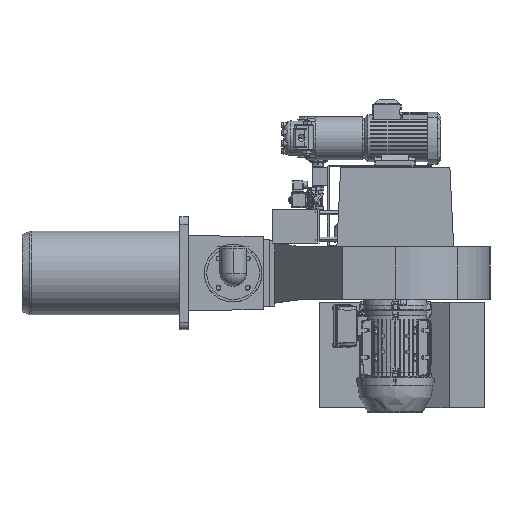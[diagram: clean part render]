
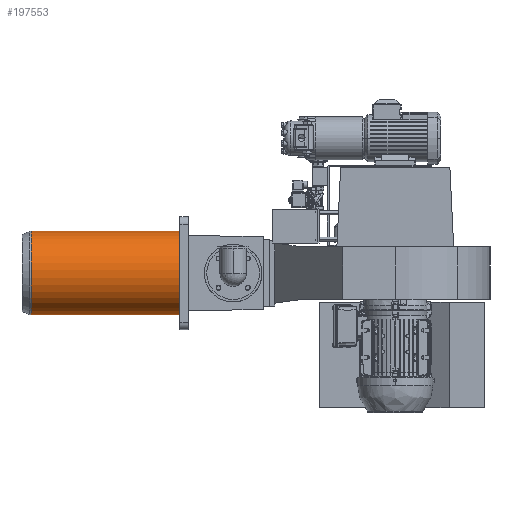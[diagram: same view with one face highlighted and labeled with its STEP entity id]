
A CAD part, front view. The second image highlights one B-rep face of the part: STEP entity #197553.
In plain terms, the highlighted cylindrical face has radius 111.25 mm (diameter 222.5 mm), a partial arc.
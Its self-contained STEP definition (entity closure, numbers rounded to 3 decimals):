
#960 = VERTEX_POINT ( 'NONE', #19985 ) ;
#7229 = DIRECTION ( 'NONE',  ( 0., -0.063, -0.998 ) ) ;
#13554 = ORIENTED_EDGE ( 'NONE', *, *, #23198, .F. ) ;
#16287 = CIRCLE ( 'NONE', #123910, 111.25 ) ;
#18796 = EDGE_LOOP ( 'NONE', ( #182835, #252511, #107341, #13554 ) ) ;
#19985 = CARTESIAN_POINT ( 'NONE',  ( -692.45, 533.467, 583.95 ) ) ;
#23198 = EDGE_CURVE ( 'NONE', #176550, #63275, #50059, .T. ) ;
#23746 = CARTESIAN_POINT ( 'NONE',  ( -299.411, 526.472, 472.92 ) ) ;
#31458 = VECTOR ( 'NONE', #252525, 1000. ) ;
#35646 = CARTESIAN_POINT ( 'NONE',  ( -299.411, 533.467, 583.95 ) ) ;
#36843 = AXIS2_PLACEMENT_3D ( 'NONE', #223588, #228710, #47437 ) ;
#44568 = CARTESIAN_POINT ( 'NONE',  ( -692.45, 519.477, 361.891 ) ) ;
#45746 = DIRECTION ( 'NONE',  ( 1., 0., 0. ) ) ;
#46143 = CYLINDRICAL_SURFACE ( 'NONE', #36843, 111.25 ) ;
#47437 = DIRECTION ( 'NONE',  ( 0., -0.063, -0.998 ) ) ;
#48374 = EDGE_CURVE ( 'NONE', #197880, #63275, #94427, .T. ) ;
#50059 = CIRCLE ( 'NONE', #116247, 111.25 ) ;
#55167 = VECTOR ( 'NONE', #60914, 1000. ) ;
#60914 = DIRECTION ( 'NONE',  ( 1., 0., 0. ) ) ;
#63275 = VERTEX_POINT ( 'NONE', #233681 ) ;
#94427 = LINE ( 'NONE', #173454, #31458 ) ;
#101039 = LINE ( 'NONE', #115394, #55167 ) ;
#107341 = ORIENTED_EDGE ( 'NONE', *, *, #48374, .T. ) ;
#115394 = CARTESIAN_POINT ( 'NONE',  ( -508.711, 533.467, 583.95 ) ) ;
#116247 = AXIS2_PLACEMENT_3D ( 'NONE', #23746, #45746, #166164 ) ;
#123910 = AXIS2_PLACEMENT_3D ( 'NONE', #221050, #184701, #7229 ) ;
#166164 = DIRECTION ( 'NONE',  ( 0., -0.063, -0.998 ) ) ;
#173454 = CARTESIAN_POINT ( 'NONE',  ( -508.711, 519.477, 361.891 ) ) ;
#176550 = VERTEX_POINT ( 'NONE', #35646 ) ;
#181993 = EDGE_CURVE ( 'NONE', #960, #176550, #101039, .T. ) ;
#182835 = ORIENTED_EDGE ( 'NONE', *, *, #181993, .F. ) ;
#184701 = DIRECTION ( 'NONE',  ( 1., 0., 0. ) ) ;
#188534 = FACE_OUTER_BOUND ( 'NONE', #18796, .T. ) ;
#197553 = ADVANCED_FACE ( 'NONE', ( #188534 ), #46143, .T. ) ;
#197880 = VERTEX_POINT ( 'NONE', #44568 ) ;
#221050 = CARTESIAN_POINT ( 'NONE',  ( -692.45, 526.472, 472.92 ) ) ;
#223256 = EDGE_CURVE ( 'NONE', #960, #197880, #16287, .T. ) ;
#223588 = CARTESIAN_POINT ( 'NONE',  ( -508.711, 526.472, 472.92 ) ) ;
#228710 = DIRECTION ( 'NONE',  ( 1., 0., 0. ) ) ;
#233681 = CARTESIAN_POINT ( 'NONE',  ( -299.411, 519.477, 361.891 ) ) ;
#252511 = ORIENTED_EDGE ( 'NONE', *, *, #223256, .T. ) ;
#252525 = DIRECTION ( 'NONE',  ( 1., 0., 0. ) ) ;
